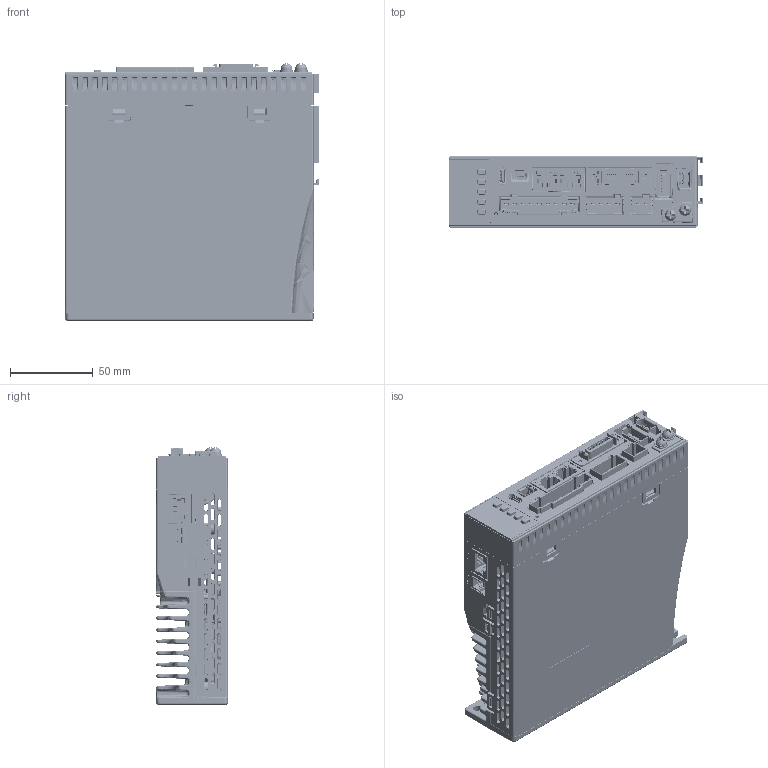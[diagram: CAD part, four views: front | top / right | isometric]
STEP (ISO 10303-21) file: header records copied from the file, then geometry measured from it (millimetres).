
FILE_DESCRIPTION((''),'2;1');
FILE_NAME('00-L8-400-ALL_ASM','2022-07-07T17:34:29',('Administrator'),(''),'CREO PARAMETRIC BY PTC INC, 2019224','CREO PARAMETRIC BY PTC INC, 2019224','');
FILE_SCHEMA(('CONFIG_CONTROL_DESIGN','GEOMETRIC_VALIDATION_PROPERTIES_MIM'));
Products named in the file (36): PCB_L8D1; CN-5-0-1X9-47-2X18-1; CN-5-0-1X4-26-2X18-1; CN-5-0-1X2-16-2X18-1; DB201S-HY; STGIB20M60TS-L; 0805LED; PCB_L8D1_ASM; PCB_L8D2; USB-J-TP16-3U10; MINI-IO-0-635-TYPE1; CON24-RJ45-2-54; SC-MCR26S90; SC-MCR10S90; 1394-6P; C-RJ10; 00000; PCB_L8D2_ASM; KEY-PCB; L8-PCB-ALL_ASM; L8-400-TOP; L8-400-BOT; L8-400-FRONT; L8-400-YKL; L8-400-KEY-CAP; L8-400-COOLING-FIN-20220518; L8-400-BODY_ASM; SCDZ-400; LINE-1; LINE-2; M4X10_GB818_1; D4_GB9074_26_1; D4_GB9074_24_1; M4X10_GB9074_4_ASM; L8-400-ALL_ASM; 00-L8-400-ALL_ASM
Assembly tree (36 placements, depth 5):
  00-L8-400-ALL_ASM
    L8-400-ALL_ASM
      L8-PCB-ALL_ASM
        PCB_L8D1_ASM
          PCB_L8D1
          CN-5-0-1X9-47-2X18-1
          CN-5-0-1X4-26-2X18-1
          CN-5-0-1X2-16-2X18-1
          DB201S-HY
          STGIB20M60TS-L
          0805LED
        PCB_L8D2_ASM
          PCB_L8D2
          USB-J-TP16-3U10
          MINI-IO-0-635-TYPE1
          CON24-RJ45-2-54
          SC-MCR26S90
          SC-MCR10S90
          1394-6P
          C-RJ10
          00000
        KEY-PCB
      L8-400-BODY_ASM
        L8-400-TOP
        L8-400-BOT
        L8-400-FRONT
        L8-400-YKL
        L8-400-KEY-CAP
        L8-400-COOLING-FIN-20220518
      SCDZ-400
      LINE-1
      LINE-2
      M4X10_GB9074_4_ASM  x2
        M4X10_GB818_1
        D4_GB9074_26_1
        D4_GB9074_24_1
Bounding box: 153.2 x 43 x 155.53 mm (x, y, z)
Volume: 388088.1 mm3; surface area: 313726.7 mm2
Topology: 33 solids, 101 shells, 12275 faces, 32822 edges, 20793 vertices
Faces by surface type: plane 7999, cylinder 2378, bspline 1058, cone 464, torus 165, sphere 154, extrusion 55, revolution 2
Entity records: 572211 total; most frequent: CARTESIAN_POINT 145793, ORIENTED_EDGE 65082, DIRECTION 56966, PRESENTATION_STYLE_ASSIGNMENT 32750, EDGE_CURVE 32541, STYLED_ITEM 29453, CURVE_STYLE 27754, VECTOR 24066
